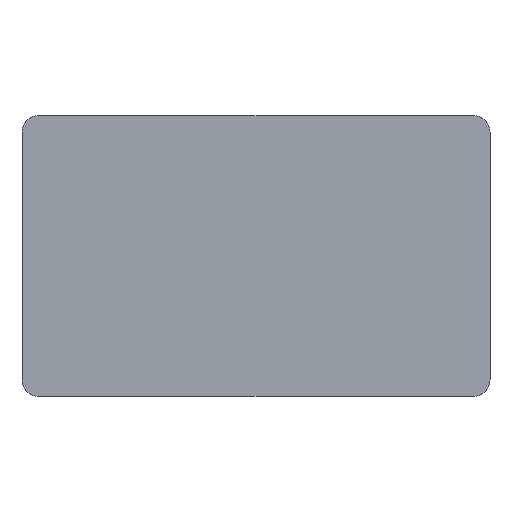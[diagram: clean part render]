
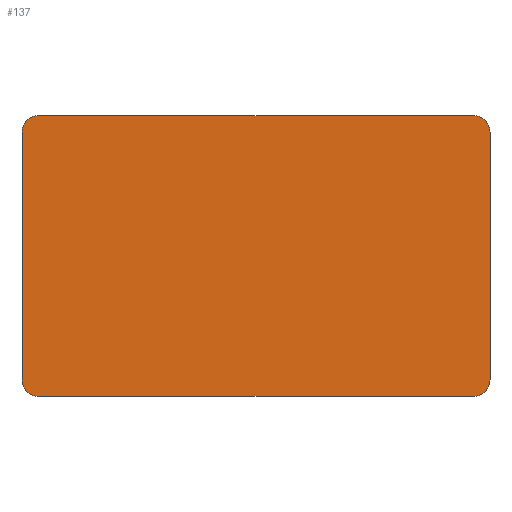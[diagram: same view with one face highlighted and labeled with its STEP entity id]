
A CAD part, top view. The second image highlights one B-rep face of the part: STEP entity #137.
In plain terms, the highlighted planar face has unit normal (0, 0, 1).
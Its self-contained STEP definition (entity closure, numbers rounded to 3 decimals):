
#21 = EDGE_CURVE('',#22,#24,#26,.T.);
#22 = VERTEX_POINT('',#23);
#23 = CARTESIAN_POINT('',(-350.,-185.,35.));
#24 = VERTEX_POINT('',#25);
#25 = CARTESIAN_POINT('',(-350.,185.,35.));
#26 = SURFACE_CURVE('',#27,(#31,#43),.PCURVE_S1.);
#27 = LINE('',#28,#29);
#28 = CARTESIAN_POINT('',(-350.,-210.,35.));
#29 = VECTOR('',#30,1.);
#30 = DIRECTION('',(0.,1.,0.));
#31 = PCURVE('',#32,#37);
#32 = PLANE('',#33);
#33 = AXIS2_PLACEMENT_3D('',#34,#35,#36);
#34 = CARTESIAN_POINT('',(-350.,-210.,0.));
#35 = DIRECTION('',(1.,0.,0.));
#36 = DIRECTION('',(0.,0.,1.));
#37 = DEFINITIONAL_REPRESENTATION('',(#38),#42);
#38 = LINE('',#39,#40);
#39 = CARTESIAN_POINT('',(35.,0.));
#40 = VECTOR('',#41,1.);
#41 = DIRECTION('',(0.,-1.));
#42 = ( GEOMETRIC_REPRESENTATION_CONTEXT(2) 
PARAMETRIC_REPRESENTATION_CONTEXT() REPRESENTATION_CONTEXT('2D SPACE',''
  ) );
#43 = PCURVE('',#44,#49);
#44 = PLANE('',#45);
#45 = AXIS2_PLACEMENT_3D('',#46,#47,#48);
#46 = CARTESIAN_POINT('',(-350.,-210.,35.));
#47 = DIRECTION('',(0.,0.,1.));
#48 = DIRECTION('',(1.,0.,0.));
#49 = DEFINITIONAL_REPRESENTATION('',(#50),#54);
#50 = LINE('',#51,#52);
#51 = CARTESIAN_POINT('',(0.,0.));
#52 = VECTOR('',#53,1.);
#53 = DIRECTION('',(0.,1.));
#54 = ( GEOMETRIC_REPRESENTATION_CONTEXT(2) 
PARAMETRIC_REPRESENTATION_CONTEXT() REPRESENTATION_CONTEXT('2D SPACE',''
  ) );
#72 = CYLINDRICAL_SURFACE('',#73,25.);
#73 = AXIS2_PLACEMENT_3D('',#74,#75,#76);
#74 = CARTESIAN_POINT('',(-325.,-185.,0.));
#75 = DIRECTION('',(0.,0.,1.));
#76 = DIRECTION('',(-1.,-0.,0.));
#126 = CYLINDRICAL_SURFACE('',#127,25.);
#127 = AXIS2_PLACEMENT_3D('',#128,#129,#130);
#128 = CARTESIAN_POINT('',(-325.,185.,0.));
#129 = DIRECTION('',(0.,0.,1.));
#130 = DIRECTION('',(-1.,-0.,0.));
#137 = ADVANCED_FACE('',(#138),#44,.T.);
#138 = FACE_BOUND('',#139,.T.);
#139 = EDGE_LOOP('',(#140,#141,#165,#193,#226,#254,#283,#311));
#140 = ORIENTED_EDGE('',*,*,#21,.F.);
#141 = ORIENTED_EDGE('',*,*,#142,.T.);
#142 = EDGE_CURVE('',#22,#143,#145,.T.);
#143 = VERTEX_POINT('',#144);
#144 = CARTESIAN_POINT('',(-325.,-210.,35.));
#145 = SURFACE_CURVE('',#146,(#151,#158),.PCURVE_S1.);
#146 = CIRCLE('',#147,25.);
#147 = AXIS2_PLACEMENT_3D('',#148,#149,#150);
#148 = CARTESIAN_POINT('',(-325.,-185.,35.));
#149 = DIRECTION('',(0.,0.,1.));
#150 = DIRECTION('',(0.,-1.,0.));
#151 = PCURVE('',#44,#152);
#152 = DEFINITIONAL_REPRESENTATION('',(#153),#157);
#153 = CIRCLE('',#154,25.);
#154 = AXIS2_PLACEMENT_2D('',#155,#156);
#155 = CARTESIAN_POINT('',(25.,25.));
#156 = DIRECTION('',(0.,-1.));
#157 = ( GEOMETRIC_REPRESENTATION_CONTEXT(2) 
PARAMETRIC_REPRESENTATION_CONTEXT() REPRESENTATION_CONTEXT('2D SPACE',''
  ) );
#158 = PCURVE('',#72,#159);
#159 = DEFINITIONAL_REPRESENTATION('',(#160),#164);
#160 = LINE('',#161,#162);
#161 = CARTESIAN_POINT('',(-4.712,35.));
#162 = VECTOR('',#163,1.);
#163 = DIRECTION('',(1.,0.));
#164 = ( GEOMETRIC_REPRESENTATION_CONTEXT(2) 
PARAMETRIC_REPRESENTATION_CONTEXT() REPRESENTATION_CONTEXT('2D SPACE',''
  ) );
#165 = ORIENTED_EDGE('',*,*,#166,.T.);
#166 = EDGE_CURVE('',#143,#167,#169,.T.);
#167 = VERTEX_POINT('',#168);
#168 = CARTESIAN_POINT('',(325.,-210.,35.));
#169 = SURFACE_CURVE('',#170,(#174,#181),.PCURVE_S1.);
#170 = LINE('',#171,#172);
#171 = CARTESIAN_POINT('',(-350.,-210.,35.));
#172 = VECTOR('',#173,1.);
#173 = DIRECTION('',(1.,0.,0.));
#174 = PCURVE('',#44,#175);
#175 = DEFINITIONAL_REPRESENTATION('',(#176),#180);
#176 = LINE('',#177,#178);
#177 = CARTESIAN_POINT('',(0.,0.));
#178 = VECTOR('',#179,1.);
#179 = DIRECTION('',(1.,0.));
#180 = ( GEOMETRIC_REPRESENTATION_CONTEXT(2) 
PARAMETRIC_REPRESENTATION_CONTEXT() REPRESENTATION_CONTEXT('2D SPACE',''
  ) );
#181 = PCURVE('',#182,#187);
#182 = PLANE('',#183);
#183 = AXIS2_PLACEMENT_3D('',#184,#185,#186);
#184 = CARTESIAN_POINT('',(-350.,-210.,0.));
#185 = DIRECTION('',(0.,1.,0.));
#186 = DIRECTION('',(0.,0.,1.));
#187 = DEFINITIONAL_REPRESENTATION('',(#188),#192);
#188 = LINE('',#189,#190);
#189 = CARTESIAN_POINT('',(35.,0.));
#190 = VECTOR('',#191,1.);
#191 = DIRECTION('',(0.,1.));
#192 = ( GEOMETRIC_REPRESENTATION_CONTEXT(2) 
PARAMETRIC_REPRESENTATION_CONTEXT() REPRESENTATION_CONTEXT('2D SPACE',''
  ) );
#193 = ORIENTED_EDGE('',*,*,#194,.F.);
#194 = EDGE_CURVE('',#195,#167,#197,.T.);
#195 = VERTEX_POINT('',#196);
#196 = CARTESIAN_POINT('',(350.,-185.,35.));
#197 = SURFACE_CURVE('',#198,(#203,#214),.PCURVE_S1.);
#198 = CIRCLE('',#199,25.);
#199 = AXIS2_PLACEMENT_3D('',#200,#201,#202);
#200 = CARTESIAN_POINT('',(325.,-185.,35.));
#201 = DIRECTION('',(-0.,-0.,-1.));
#202 = DIRECTION('',(0.,-1.,0.));
#203 = PCURVE('',#44,#204);
#204 = DEFINITIONAL_REPRESENTATION('',(#205),#213);
#205 = ( BOUNDED_CURVE() B_SPLINE_CURVE(2,(#206,#207,#208,#209,#210,#211
,#212),.UNSPECIFIED.,.T.,.F.) B_SPLINE_CURVE_WITH_KNOTS((1,2,2,2,2,1),(
    -2.094,0.,2.094,4.189,6.283,
8.378),.UNSPECIFIED.) CURVE() GEOMETRIC_REPRESENTATION_ITEM() 
RATIONAL_B_SPLINE_CURVE((1.,0.5,1.,0.5,1.,0.5,1.)) REPRESENTATION_ITEM(
  '') );
#206 = CARTESIAN_POINT('',(675.,0.));
#207 = CARTESIAN_POINT('',(631.699,0.));
#208 = CARTESIAN_POINT('',(653.349,37.5));
#209 = CARTESIAN_POINT('',(675.,75.));
#210 = CARTESIAN_POINT('',(696.651,37.5));
#211 = CARTESIAN_POINT('',(718.301,0.));
#212 = CARTESIAN_POINT('',(675.,0.));
#213 = ( GEOMETRIC_REPRESENTATION_CONTEXT(2) 
PARAMETRIC_REPRESENTATION_CONTEXT() REPRESENTATION_CONTEXT('2D SPACE',''
  ) );
#214 = PCURVE('',#215,#220);
#215 = CYLINDRICAL_SURFACE('',#216,25.);
#216 = AXIS2_PLACEMENT_3D('',#217,#218,#219);
#217 = CARTESIAN_POINT('',(325.,-185.,0.));
#218 = DIRECTION('',(0.,0.,1.));
#219 = DIRECTION('',(1.,0.,-0.));
#220 = DEFINITIONAL_REPRESENTATION('',(#221),#225);
#221 = LINE('',#222,#223);
#222 = CARTESIAN_POINT('',(4.712,35.));
#223 = VECTOR('',#224,1.);
#224 = DIRECTION('',(-1.,0.));
#225 = ( GEOMETRIC_REPRESENTATION_CONTEXT(2) 
PARAMETRIC_REPRESENTATION_CONTEXT() REPRESENTATION_CONTEXT('2D SPACE',''
  ) );
#226 = ORIENTED_EDGE('',*,*,#227,.T.);
#227 = EDGE_CURVE('',#195,#228,#230,.T.);
#228 = VERTEX_POINT('',#229);
#229 = CARTESIAN_POINT('',(350.,185.,35.));
#230 = SURFACE_CURVE('',#231,(#235,#242),.PCURVE_S1.);
#231 = LINE('',#232,#233);
#232 = CARTESIAN_POINT('',(350.,-210.,35.));
#233 = VECTOR('',#234,1.);
#234 = DIRECTION('',(0.,1.,0.));
#235 = PCURVE('',#44,#236);
#236 = DEFINITIONAL_REPRESENTATION('',(#237),#241);
#237 = LINE('',#238,#239);
#238 = CARTESIAN_POINT('',(700.,0.));
#239 = VECTOR('',#240,1.);
#240 = DIRECTION('',(0.,1.));
#241 = ( GEOMETRIC_REPRESENTATION_CONTEXT(2) 
PARAMETRIC_REPRESENTATION_CONTEXT() REPRESENTATION_CONTEXT('2D SPACE',''
  ) );
#242 = PCURVE('',#243,#248);
#243 = PLANE('',#244);
#244 = AXIS2_PLACEMENT_3D('',#245,#246,#247);
#245 = CARTESIAN_POINT('',(350.,-210.,0.));
#246 = DIRECTION('',(1.,0.,0.));
#247 = DIRECTION('',(0.,0.,1.));
#248 = DEFINITIONAL_REPRESENTATION('',(#249),#253);
#249 = LINE('',#250,#251);
#250 = CARTESIAN_POINT('',(35.,0.));
#251 = VECTOR('',#252,1.);
#252 = DIRECTION('',(0.,-1.));
#253 = ( GEOMETRIC_REPRESENTATION_CONTEXT(2) 
PARAMETRIC_REPRESENTATION_CONTEXT() REPRESENTATION_CONTEXT('2D SPACE',''
  ) );
#254 = ORIENTED_EDGE('',*,*,#255,.T.);
#255 = EDGE_CURVE('',#228,#256,#258,.T.);
#256 = VERTEX_POINT('',#257);
#257 = CARTESIAN_POINT('',(325.,210.,35.));
#258 = SURFACE_CURVE('',#259,(#264,#271),.PCURVE_S1.);
#259 = CIRCLE('',#260,25.);
#260 = AXIS2_PLACEMENT_3D('',#261,#262,#263);
#261 = CARTESIAN_POINT('',(325.,185.,35.));
#262 = DIRECTION('',(0.,0.,1.));
#263 = DIRECTION('',(0.,-1.,0.));
#264 = PCURVE('',#44,#265);
#265 = DEFINITIONAL_REPRESENTATION('',(#266),#270);
#266 = CIRCLE('',#267,25.);
#267 = AXIS2_PLACEMENT_2D('',#268,#269);
#268 = CARTESIAN_POINT('',(675.,395.));
#269 = DIRECTION('',(0.,-1.));
#270 = ( GEOMETRIC_REPRESENTATION_CONTEXT(2) 
PARAMETRIC_REPRESENTATION_CONTEXT() REPRESENTATION_CONTEXT('2D SPACE',''
  ) );
#271 = PCURVE('',#272,#277);
#272 = CYLINDRICAL_SURFACE('',#273,25.);
#273 = AXIS2_PLACEMENT_3D('',#274,#275,#276);
#274 = CARTESIAN_POINT('',(325.,185.,0.));
#275 = DIRECTION('',(0.,0.,1.));
#276 = DIRECTION('',(1.,0.,-0.));
#277 = DEFINITIONAL_REPRESENTATION('',(#278),#282);
#278 = LINE('',#279,#280);
#279 = CARTESIAN_POINT('',(-1.571,35.));
#280 = VECTOR('',#281,1.);
#281 = DIRECTION('',(1.,0.));
#282 = ( GEOMETRIC_REPRESENTATION_CONTEXT(2) 
PARAMETRIC_REPRESENTATION_CONTEXT() REPRESENTATION_CONTEXT('2D SPACE',''
  ) );
#283 = ORIENTED_EDGE('',*,*,#284,.F.);
#284 = EDGE_CURVE('',#285,#256,#287,.T.);
#285 = VERTEX_POINT('',#286);
#286 = CARTESIAN_POINT('',(-325.,210.,35.));
#287 = SURFACE_CURVE('',#288,(#292,#299),.PCURVE_S1.);
#288 = LINE('',#289,#290);
#289 = CARTESIAN_POINT('',(-350.,210.,35.));
#290 = VECTOR('',#291,1.);
#291 = DIRECTION('',(1.,0.,0.));
#292 = PCURVE('',#44,#293);
#293 = DEFINITIONAL_REPRESENTATION('',(#294),#298);
#294 = LINE('',#295,#296);
#295 = CARTESIAN_POINT('',(0.,420.));
#296 = VECTOR('',#297,1.);
#297 = DIRECTION('',(1.,0.));
#298 = ( GEOMETRIC_REPRESENTATION_CONTEXT(2) 
PARAMETRIC_REPRESENTATION_CONTEXT() REPRESENTATION_CONTEXT('2D SPACE',''
  ) );
#299 = PCURVE('',#300,#305);
#300 = PLANE('',#301);
#301 = AXIS2_PLACEMENT_3D('',#302,#303,#304);
#302 = CARTESIAN_POINT('',(-350.,210.,0.));
#303 = DIRECTION('',(0.,1.,0.));
#304 = DIRECTION('',(0.,0.,1.));
#305 = DEFINITIONAL_REPRESENTATION('',(#306),#310);
#306 = LINE('',#307,#308);
#307 = CARTESIAN_POINT('',(35.,0.));
#308 = VECTOR('',#309,1.);
#309 = DIRECTION('',(0.,1.));
#310 = ( GEOMETRIC_REPRESENTATION_CONTEXT(2) 
PARAMETRIC_REPRESENTATION_CONTEXT() REPRESENTATION_CONTEXT('2D SPACE',''
  ) );
#311 = ORIENTED_EDGE('',*,*,#312,.F.);
#312 = EDGE_CURVE('',#24,#285,#313,.T.);
#313 = SURFACE_CURVE('',#314,(#319,#330),.PCURVE_S1.);
#314 = CIRCLE('',#315,25.);
#315 = AXIS2_PLACEMENT_3D('',#316,#317,#318);
#316 = CARTESIAN_POINT('',(-325.,185.,35.));
#317 = DIRECTION('',(-0.,-0.,-1.));
#318 = DIRECTION('',(0.,-1.,0.));
#319 = PCURVE('',#44,#320);
#320 = DEFINITIONAL_REPRESENTATION('',(#321),#329);
#321 = ( BOUNDED_CURVE() B_SPLINE_CURVE(2,(#322,#323,#324,#325,#326,#327
,#328),.UNSPECIFIED.,.T.,.F.) B_SPLINE_CURVE_WITH_KNOTS((1,2,2,2,2,1),(
    -2.094,0.,2.094,4.189,6.283,
8.378),.UNSPECIFIED.) CURVE() GEOMETRIC_REPRESENTATION_ITEM() 
RATIONAL_B_SPLINE_CURVE((1.,0.5,1.,0.5,1.,0.5,1.)) REPRESENTATION_ITEM(
  '') );
#322 = CARTESIAN_POINT('',(25.,370.));
#323 = CARTESIAN_POINT('',(-18.301,370.));
#324 = CARTESIAN_POINT('',(3.349,407.5));
#325 = CARTESIAN_POINT('',(25.,445.));
#326 = CARTESIAN_POINT('',(46.651,407.5));
#327 = CARTESIAN_POINT('',(68.301,370.));
#328 = CARTESIAN_POINT('',(25.,370.));
#329 = ( GEOMETRIC_REPRESENTATION_CONTEXT(2) 
PARAMETRIC_REPRESENTATION_CONTEXT() REPRESENTATION_CONTEXT('2D SPACE',''
  ) );
#330 = PCURVE('',#126,#331);
#331 = DEFINITIONAL_REPRESENTATION('',(#332),#336);
#332 = LINE('',#333,#334);
#333 = CARTESIAN_POINT('',(1.571,35.));
#334 = VECTOR('',#335,1.);
#335 = DIRECTION('',(-1.,0.));
#336 = ( GEOMETRIC_REPRESENTATION_CONTEXT(2) 
PARAMETRIC_REPRESENTATION_CONTEXT() REPRESENTATION_CONTEXT('2D SPACE',''
  ) );
